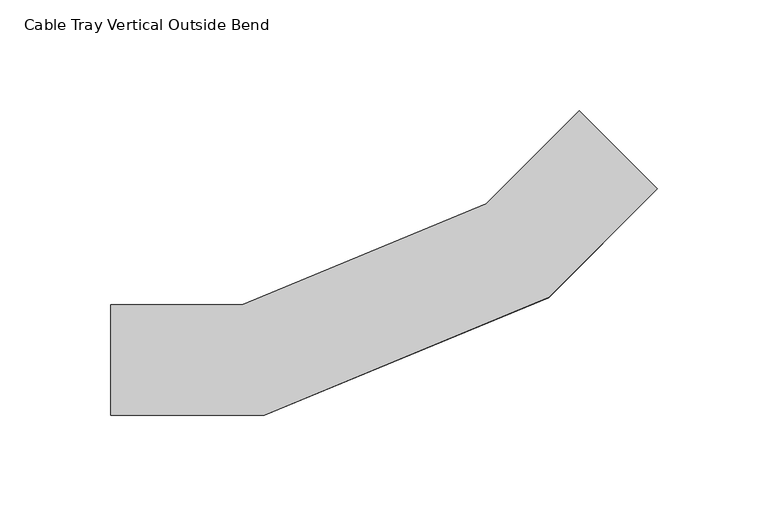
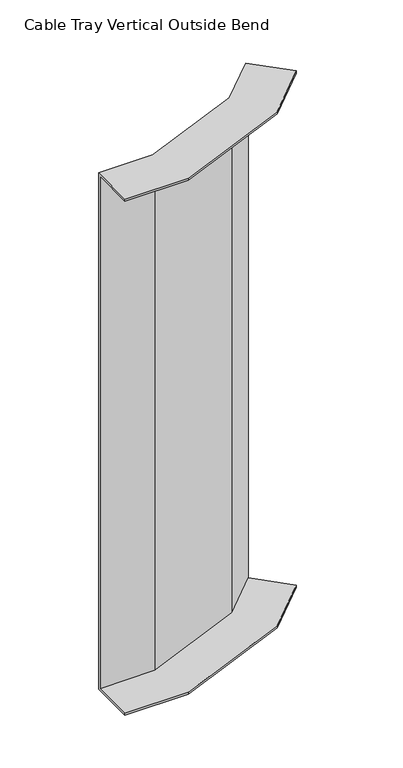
"""IFC4 building model written with IfcOpenShell, lengths in millimetres: cable carrier fitting geometry, Cable Tray Vertical Outside Bend : ELEC_SUB_CT_N2402."""

import ifcopenshell
import ifcopenshell.guid

model = None  # the IFC model being written
_history = None  # IfcOwnerHistory: only IFC2X3 demands one
_inside = {}  # id of a spatial element -> (the spatial element, [elements in it])
_under = {}  # id of a project, library or spatial element -> (it, [spatial elements below it])
_declared = {}  # id of a project -> (the project, [libraries it declares])
_typed = {}  # id of a type object -> (the type object, [elements of that type])
_made_of = {}  # id of a material, layer set ... -> (it, [elements and type objects made of it])


def new_model(schema):
    """Start an empty IFC model of exactly this schema.

    Asked for "IFC4X3", IfcOpenShell would pick the latest addendum, in which some entities
    have other attributes; the version numbers below select the first issue.
    IFC2X3 requires an IfcOwnerHistory on every rooted entity: one is made here for all.
    """
    global model, _history
    if schema == "IFC4X3":
        model = ifcopenshell.file(schema_version=(4, 3, 0, 0))
    else:
        model = ifcopenshell.file(schema=schema)
    _inside.clear()
    _under.clear()
    _declared.clear()
    _typed.clear()
    _made_of.clear()
    _history = None
    if model.schema == "IFC2X3":
        org = make("IfcOrganization", Name="unknown")
        user = make(
            "IfcPersonAndOrganization",
            ThePerson=make("IfcPerson", FamilyName="unknown"),
            TheOrganization=org,
        )
        app = make(
            "IfcApplication",
            ApplicationDeveloper=org,
            Version="unknown",
            ApplicationFullName="unknown",
            ApplicationIdentifier="unknown",
        )
        _history = make(
            "IfcOwnerHistory",
            OwningUser=user,
            OwningApplication=app,
            ChangeAction="ADDED",
            CreationDate=0,
        )
    return model


def make(cls, **values):
    """One entity of the class cls with the attributes given. An attribute that is None is left unset."""
    return model.create_entity(
        cls, **{name: value for name, value in values.items() if value is not None}
    )


def rooted(cls, **values):
    """An entity with a GlobalId (a new one), such as an element, a storey or a relation."""
    return make(cls, GlobalId=ifcopenshell.guid.new(), OwnerHistory=_history, **values)


def si_unit(unit_type, name, prefix=None):
    """IfcSIUnit, for example si_unit("LENGTHUNIT", "METRE", prefix="MILLI")."""
    return make("IfcSIUnit", UnitType=unit_type, Prefix=prefix, Name=name)


def assignment(units):
    """IfcUnitAssignment: the units of a project."""
    return None if units is None else make("IfcUnitAssignment", Units=units)


def point(xyz):
    """IfcCartesianPoint."""
    return None if xyz is None else make("IfcCartesianPoint", Coordinates=xyz)


def direction(xyz):
    """IfcDirection."""
    return None if xyz is None else make("IfcDirection", DirectionRatios=xyz)


def frame(location, z_axis=None, x_axis=None):
    """IfcAxis2Placement3D, a coordinate frame: its origin and axes. An axis left out is left unset."""
    return make(
        "IfcAxis2Placement3D",
        Location=point(location),
        Axis=direction(z_axis),
        RefDirection=direction(x_axis),
    )


def origin():
    """The frame at (0, 0, 0) with its axes left unset."""
    return frame((0.0, 0.0, 0.0))


def place(relative_to, where):
    """IfcLocalPlacement: puts the frame where relative to a parent placement (None: the world)."""
    return make(
        "IfcLocalPlacement", PlacementRelTo=relative_to, RelativePlacement=where
    )


def context(
    kind, dimensions, precision=None, world=None, true_north=None, identifier=None
):
    """IfcGeometricRepresentationContext, for example the 3D "Model" context."""
    return make(
        "IfcGeometricRepresentationContext",
        ContextIdentifier=identifier,
        ContextType=kind,
        CoordinateSpaceDimension=dimensions,
        Precision=precision,
        WorldCoordinateSystem=world,
        TrueNorth=true_north,
    )


def project(units=None, contexts=None):
    """IfcProject with its units and contexts."""
    return rooted(
        "IfcProject",
        Name="project",
        RepresentationContexts=contexts,
        UnitsInContext=assignment(units),
    )


def spatial(cls, under=None, at=None, **own):
    """A site, building, storey or space (cls), placed at a placement, below another one or the project."""
    s = rooted(cls, ObjectPlacement=at, **own)
    if under is not None:
        _under.setdefault(under.id(), (under, []))[1].append(s)
    return s


def faces_of(points, faces, orient=None, outer=None):
    """IfcFace entities. A face is a list of loops; a loop is a list of indices into points, from 0.

    orient and outer hold one flag for each loop. By default every Orientation is true, the
    first loop of a face is its IfcFaceOuterBound and the others are IfcFaceBound.
    """
    made = []
    for i, loops in enumerate(faces):
        bounds = []
        for j, loop in enumerate(loops):
            is_outer = j == 0 if outer is None else outer[i][j]
            bounds.append(
                make(
                    "IfcFaceOuterBound" if is_outer else "IfcFaceBound",
                    Bound=make("IfcPolyLoop", Polygon=[points[k] for k in loop]),
                    Orientation=True if orient is None else orient[i][j],
                )
            )
        made.append(make("IfcFace", Bounds=bounds))
    return made


def faceted_brep(points, faces, orient=None, outer=None, voids=None):
    """IfcFacetedBrep: a solid bounded by flat faces; with voids (closed shells), ...WithVoids."""
    shared = [point(p) for p in points]
    hull = make("IfcClosedShell", CfsFaces=faces_of(shared, faces, orient, outer))
    if voids is None:
        return make("IfcFacetedBrep", Outer=hull)
    return make(
        "IfcFacetedBrepWithVoids",
        Outer=hull,
        Voids=[
            make(cls, CfsFaces=faces_of(shared, fs, o, b)) for cls, fs, o, b in voids
        ],
    )


def shape(context_of_items, identifier, shape_type, items):
    """IfcShapeRepresentation: the items that make up one representation, for example the "Body"."""
    return make(
        "IfcShapeRepresentation",
        ContextOfItems=context_of_items,
        RepresentationIdentifier=identifier,
        RepresentationType=shape_type,
        Items=items,
    )


def source(mapping_origin, context_of_items, identifier, shape_type, items):
    """IfcRepresentationMap: a shape defined once, which mapped items show again and again."""
    return make(
        "IfcRepresentationMap",
        MappingOrigin=mapping_origin,
        MappedRepresentation=shape(context_of_items, identifier, shape_type, items),
    )


def transform(
    local_origin,
    x_axis=None,
    y_axis=None,
    z_axis=None,
    scale=None,
    scale2=None,
    scale3=None,
    uniform=True,
):
    """IfcCartesianTransformationOperator3D, or its non-uniform kind. x_axis, y_axis, z_axis: its Axis1, 2, 3."""
    if uniform:
        return make(
            "IfcCartesianTransformationOperator3D",
            Axis1=direction(x_axis),
            Axis2=direction(y_axis),
            LocalOrigin=point(local_origin),
            Scale=scale,
            Axis3=direction(z_axis),
        )
    return make(
        "IfcCartesianTransformationOperator3DnonUniform",
        Axis1=direction(x_axis),
        Axis2=direction(y_axis),
        LocalOrigin=point(local_origin),
        Scale=scale,
        Axis3=direction(z_axis),
        Scale2=scale2,
        Scale3=scale3,
    )


def mapped(mapping_source, mapping_target):
    """IfcMappedItem: shows the shape of a source again, moved by a transform."""
    return make(
        "IfcMappedItem", MappingSource=mapping_source, MappingTarget=mapping_target
    )


def made_of(thing, what):
    """Note that an element or type object is made of a material, layer set ...; save() writes the relation."""
    if what is not None:
        _made_of.setdefault(what.id(), (what, []))[1].append(thing)
    return thing


def element(
    cls,
    number,
    at=None,
    inside=None,
    cuts=None,
    type_object=None,
    material=None,
    context=None,
    identifier="Body",
    shape_type=None,
    held_by="IfcProductDefinitionShape",
    body=None,
    shapes=None,
    **own,
):
    """One element of the class cls, such as IfcWall. Its Tag is "e" and its number.

    at: its placement. inside: the storey or other place that contains it. cuts: it is an
    opening in that element (IfcRelVoidsElement). A single representation is given by context,
    identifier, shape_type and body (its items); several are given by shapes. held_by: the class
    of the entity that holds the representations. save() writes the other relations.
    """
    e = rooted(cls, Tag="e%d" % number, ObjectPlacement=at, **own)
    if body is not None:
        shapes = [shape(context, identifier, shape_type, body)]
    if shapes is not None:
        e.Representation = make(held_by, Representations=shapes)
    if inside is not None:
        _inside.setdefault(inside.id(), (inside, []))[1].append(e)
    if cuts is not None:
        rooted(
            "IfcRelVoidsElement", RelatingBuildingElement=cuts, RelatedOpeningElement=e
        )
    if type_object is not None:
        _typed.setdefault(type_object.id(), (type_object, []))[1].append(e)
    return made_of(e, material)


def aggregate(whole, parts):
    """IfcRelAggregates: a whole, such as a stair, and the parts it consists of."""
    return rooted("IfcRelAggregates", RelatingObject=whole, RelatedObjects=parts)


def save(model, path):
    """Write the relations noted so far, then the file.

    IfcRelAggregates (storeys below a building ...), IfcRelContainedInSpatialStructure (elements
    in a storey), IfcRelDefinesByType, IfcRelAssociatesMaterial and IfcRelDeclares: one each for
    every whole, place, type object, material and project.
    """
    for whole, parts in _under.values():
        aggregate(whole, parts)
    for where, things in _inside.values():
        rooted(
            "IfcRelContainedInSpatialStructure",
            RelatedElements=things,
            RelatingStructure=where,
        )
    for kind, things in _typed.values():
        rooted("IfcRelDefinesByType", RelatedObjects=things, RelatingType=kind)
    for what, things in _made_of.values():
        rooted("IfcRelAssociatesMaterial", RelatedObjects=things, RelatingMaterial=what)
    for by, libraries in _declared.values():
        rooted("IfcRelDeclares", RelatingContext=by, RelatedDefinitions=libraries)
    model.write(path)


def cable_tray_vertical_outside_bend_12a83c8c(model_context):
    return source(origin(), model_context, "Body", "Brep", [
        faceted_brep([(-134.6194078, -25.0, 300.0), (-134.6194078, 25.0, 300.0), (-134.6194078, 25.0, -300.0), (-134.6194078, -25.0, -300.0), (-134.6194078, -25.0, -297.46), (-134.6194078, 22.46, -297.46), (-134.6194078, 22.46, 297.46), (-134.6194078, -25.0, 297.46), (112.8679656, 77.5126266, 300.0), (112.8679656, 77.5126266, 297.46), (79.3086778, 111.0719144, 297.46), (79.3086778, 111.0719144, -297.46), (112.8679656, 77.5126266, -297.46), (112.8679656, 77.5126266, -300.0), (77.5126266, 112.8679656, -300.0), (77.5126266, 112.8679656, 300.0), (-65.0000792, -25.0, 300.0), (63.6396663, 28.2843272, 300.0), (35.3169414, 70.6722805, 300.0), (-74.9456976, 25.0, 300.0), (-74.9456976, 25.0, -300.0), (35.3169414, 70.6722805, -300.0), (63.6396663, 28.2843272, -300.0), (-65.0000792, -25.0, -300.0), (-65.0000792, -25.0, -297.46), (63.6396663, 28.2843272, -297.46), (36.7557359, 68.5189725, -297.46), (-74.4404601, 22.46, -297.46), (-74.4404601, 22.46, 297.46), (36.7557359, 68.5189725, 297.46), (63.6396663, 28.2843272, 297.46), (-65.0000792, -25.0, 297.46)], [[[0, 1, 2, 3, 4, 5, 6, 7]], [[8, 9, 10, 11, 12, 13, 14, 15]], [[1, 0, 16, 17, 8, 15, 18, 19]], [[2, 1, 19, 20]], [[3, 2, 20, 21, 14, 13, 22, 23]], [[4, 3, 23, 24]], [[5, 4, 24, 25, 12, 11, 26, 27]], [[6, 5, 27, 28]], [[7, 6, 28, 29, 10, 9, 30, 31]], [[0, 7, 31, 16]], [[20, 19, 18, 21]], [[24, 23, 22, 25]], [[28, 27, 26, 29]], [[16, 31, 30, 17]], [[21, 18, 15, 14]], [[25, 22, 13, 12]], [[29, 26, 11, 10]], [[17, 30, 9, 8]]]),
    ])


if __name__ == "__main__":
    model = new_model("IFC4")
    model_context = context("Model", 3, world=origin())
    ifc_project = project(units=[si_unit("LENGTHUNIT", "METRE", prefix="MILLI")], contexts=[model_context])
    site = spatial("IfcSite", under=ifc_project)
    building = spatial("IfcBuilding", under=site)
    placement = place(None, origin())
    cable_tray_vertical_outside_bend_shape = cable_tray_vertical_outside_bend_12a83c8c(model_context)
    element("IfcCableCarrierFitting", 1, ObjectType="Cable Tray Vertical Outside Bend : ELEC_SUB_CT_N2402", at=placement, inside=building, context=model_context, shape_type="MappedRepresentation", body=[
        mapped(cable_tray_vertical_outside_bend_shape, transform((0.0, 0.0, 0.0), x_axis=(1.0, 0.0, 0.0), y_axis=(0.0, 1.0, 0.0), z_axis=(0.0, 0.0, 1.0))),
    ])
    save(model, "model.ifc")
